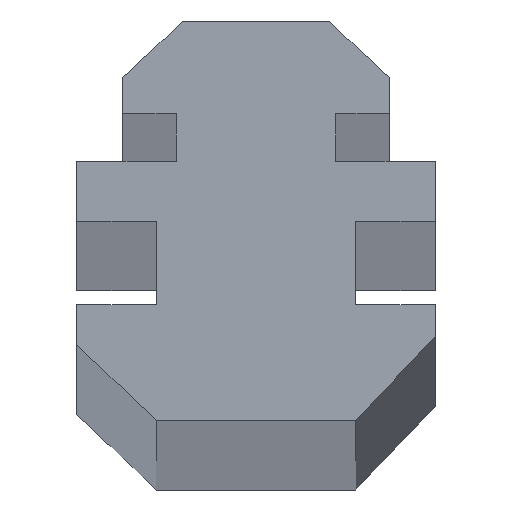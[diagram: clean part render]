
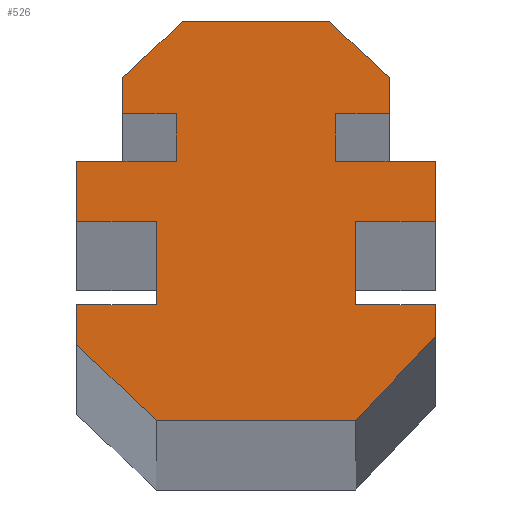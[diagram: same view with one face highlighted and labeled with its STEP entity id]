
A CAD part, top view. The second image highlights one B-rep face of the part: STEP entity #526.
In plain terms, the highlighted planar face has unit normal (0, 0, 1).
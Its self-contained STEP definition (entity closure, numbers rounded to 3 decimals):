
#40=FACE_OUTER_BOUND('',#66,.T.);
#66=EDGE_LOOP('',(#451,#452,#453,#454,#455,#456,#457,#458,#459,#460,#461,
#462,#463,#464,#465,#466,#467,#468,#469,#470,#471,#472,#473,#474));
#92=LINE('',#753,#164);
#94=LINE('',#757,#166);
#96=LINE('',#761,#168);
#98=LINE('',#765,#170);
#100=LINE('',#769,#172);
#102=LINE('',#773,#174);
#104=LINE('',#777,#176);
#106=LINE('',#781,#178);
#108=LINE('',#785,#180);
#110=LINE('',#789,#182);
#112=LINE('',#793,#184);
#114=LINE('',#797,#186);
#116=LINE('',#801,#188);
#118=LINE('',#805,#190);
#120=LINE('',#809,#192);
#122=LINE('',#813,#194);
#124=LINE('',#817,#196);
#126=LINE('',#821,#198);
#128=LINE('',#825,#200);
#130=LINE('',#829,#202);
#132=LINE('',#833,#204);
#134=LINE('',#837,#206);
#136=LINE('',#841,#208);
#138=LINE('',#844,#210);
#164=VECTOR('',#604,10.);
#166=VECTOR('',#608,10.);
#168=VECTOR('',#612,10.);
#170=VECTOR('',#616,10.);
#172=VECTOR('',#620,10.);
#174=VECTOR('',#624,10.);
#176=VECTOR('',#628,10.);
#178=VECTOR('',#632,10.);
#180=VECTOR('',#636,10.);
#182=VECTOR('',#640,10.);
#184=VECTOR('',#644,10.);
#186=VECTOR('',#648,10.);
#188=VECTOR('',#652,10.);
#190=VECTOR('',#656,10.);
#192=VECTOR('',#660,10.);
#194=VECTOR('',#664,10.);
#196=VECTOR('',#668,10.);
#198=VECTOR('',#672,10.);
#200=VECTOR('',#676,10.);
#202=VECTOR('',#680,10.);
#204=VECTOR('',#684,10.);
#206=VECTOR('',#688,10.);
#208=VECTOR('',#692,10.);
#210=VECTOR('',#696,10.);
#235=VERTEX_POINT('',#750);
#236=VERTEX_POINT('',#752);
#237=VERTEX_POINT('',#756);
#238=VERTEX_POINT('',#760);
#239=VERTEX_POINT('',#764);
#240=VERTEX_POINT('',#768);
#241=VERTEX_POINT('',#772);
#242=VERTEX_POINT('',#776);
#243=VERTEX_POINT('',#780);
#244=VERTEX_POINT('',#784);
#245=VERTEX_POINT('',#788);
#246=VERTEX_POINT('',#792);
#247=VERTEX_POINT('',#796);
#248=VERTEX_POINT('',#800);
#249=VERTEX_POINT('',#804);
#250=VERTEX_POINT('',#808);
#251=VERTEX_POINT('',#812);
#252=VERTEX_POINT('',#816);
#253=VERTEX_POINT('',#820);
#254=VERTEX_POINT('',#824);
#255=VERTEX_POINT('',#828);
#256=VERTEX_POINT('',#832);
#257=VERTEX_POINT('',#836);
#258=VERTEX_POINT('',#840);
#284=EDGE_CURVE('',#236,#235,#92,.T.);
#286=EDGE_CURVE('',#237,#236,#94,.T.);
#288=EDGE_CURVE('',#238,#237,#96,.T.);
#290=EDGE_CURVE('',#239,#238,#98,.T.);
#292=EDGE_CURVE('',#240,#239,#100,.T.);
#294=EDGE_CURVE('',#241,#240,#102,.T.);
#296=EDGE_CURVE('',#242,#241,#104,.T.);
#298=EDGE_CURVE('',#243,#242,#106,.T.);
#300=EDGE_CURVE('',#244,#243,#108,.T.);
#302=EDGE_CURVE('',#245,#244,#110,.T.);
#304=EDGE_CURVE('',#246,#245,#112,.T.);
#306=EDGE_CURVE('',#247,#246,#114,.T.);
#308=EDGE_CURVE('',#248,#247,#116,.T.);
#310=EDGE_CURVE('',#249,#248,#118,.T.);
#312=EDGE_CURVE('',#250,#249,#120,.T.);
#314=EDGE_CURVE('',#251,#250,#122,.T.);
#316=EDGE_CURVE('',#252,#251,#124,.T.);
#318=EDGE_CURVE('',#253,#252,#126,.T.);
#320=EDGE_CURVE('',#254,#253,#128,.T.);
#322=EDGE_CURVE('',#255,#254,#130,.T.);
#324=EDGE_CURVE('',#256,#255,#132,.T.);
#326=EDGE_CURVE('',#257,#256,#134,.T.);
#328=EDGE_CURVE('',#258,#257,#136,.T.);
#330=EDGE_CURVE('',#235,#258,#138,.T.);
#451=ORIENTED_EDGE('',*,*,#330,.T.);
#452=ORIENTED_EDGE('',*,*,#328,.T.);
#453=ORIENTED_EDGE('',*,*,#326,.T.);
#454=ORIENTED_EDGE('',*,*,#324,.T.);
#455=ORIENTED_EDGE('',*,*,#322,.T.);
#456=ORIENTED_EDGE('',*,*,#320,.T.);
#457=ORIENTED_EDGE('',*,*,#318,.T.);
#458=ORIENTED_EDGE('',*,*,#316,.T.);
#459=ORIENTED_EDGE('',*,*,#314,.T.);
#460=ORIENTED_EDGE('',*,*,#312,.T.);
#461=ORIENTED_EDGE('',*,*,#310,.T.);
#462=ORIENTED_EDGE('',*,*,#308,.T.);
#463=ORIENTED_EDGE('',*,*,#306,.T.);
#464=ORIENTED_EDGE('',*,*,#304,.T.);
#465=ORIENTED_EDGE('',*,*,#302,.T.);
#466=ORIENTED_EDGE('',*,*,#300,.T.);
#467=ORIENTED_EDGE('',*,*,#298,.T.);
#468=ORIENTED_EDGE('',*,*,#296,.T.);
#469=ORIENTED_EDGE('',*,*,#294,.T.);
#470=ORIENTED_EDGE('',*,*,#292,.T.);
#471=ORIENTED_EDGE('',*,*,#290,.T.);
#472=ORIENTED_EDGE('',*,*,#288,.T.);
#473=ORIENTED_EDGE('',*,*,#286,.T.);
#474=ORIENTED_EDGE('',*,*,#284,.T.);
#500=PLANE('',#572);
#526=ADVANCED_FACE('',(#40),#500,.T.);
#572=AXIS2_PLACEMENT_3D('',#845,#697,#698);
#604=DIRECTION('',(-1.,0.,0.));
#608=DIRECTION('',(0.,-1.,0.));
#612=DIRECTION('',(1.,0.,0.));
#616=DIRECTION('',(0.,-1.,0.));
#620=DIRECTION('',(-0.731,-0.682,0.));
#624=DIRECTION('',(-1.,0.,0.));
#628=DIRECTION('',(-0.731,0.682,0.));
#632=DIRECTION('',(0.,1.,0.));
#636=DIRECTION('',(1.,0.,0.));
#640=DIRECTION('',(0.,1.,0.));
#644=DIRECTION('',(-1.,0.,0.));
#648=DIRECTION('',(0.,1.,0.));
#652=DIRECTION('',(1.,0.,0.));
#656=DIRECTION('',(0.,1.,0.));
#660=DIRECTION('',(-1.,0.,0.));
#664=DIRECTION('',(0.,1.,0.));
#668=DIRECTION('',(0.689,0.725,0.));
#672=DIRECTION('',(1.,0.,0.));
#676=DIRECTION('',(0.725,-0.689,0.));
#680=DIRECTION('',(0.,-1.,0.));
#684=DIRECTION('',(-1.,0.,0.));
#688=DIRECTION('',(0.,-1.,0.));
#692=DIRECTION('',(1.,0.,0.));
#696=DIRECTION('',(0.,-1.,0.));
#697=DIRECTION('center_axis',(0.,0.,1.));
#698=DIRECTION('ref_axis',(1.,0.,0.));
#750=CARTESIAN_POINT('',(-9.,1.5,1000.));
#752=CARTESIAN_POINT('',(-4.,1.5,1000.));
#753=CARTESIAN_POINT('',(-4.,1.5,1000.));
#756=CARTESIAN_POINT('',(-4.,3.9,1000.));
#757=CARTESIAN_POINT('',(-4.,3.9,1000.));
#760=CARTESIAN_POINT('',(-6.7,3.9,1000.));
#761=CARTESIAN_POINT('',(-6.7,3.9,1000.));
#764=CARTESIAN_POINT('',(-6.7,5.7,1000.));
#765=CARTESIAN_POINT('',(-6.7,5.7,1000.));
#768=CARTESIAN_POINT('',(-3.7,8.5,1000.));
#769=CARTESIAN_POINT('',(-3.7,8.5,1000.));
#772=CARTESIAN_POINT('',(3.7,8.5,1000.));
#773=CARTESIAN_POINT('',(3.7,8.5,1000.));
#776=CARTESIAN_POINT('',(6.7,5.7,1000.));
#777=CARTESIAN_POINT('',(6.7,5.7,1000.));
#780=CARTESIAN_POINT('',(6.7,3.9,1000.));
#781=CARTESIAN_POINT('',(6.7,3.9,1000.));
#784=CARTESIAN_POINT('',(4.,3.9,1000.));
#785=CARTESIAN_POINT('',(4.,3.9,1000.));
#788=CARTESIAN_POINT('',(4.,1.5,1000.));
#789=CARTESIAN_POINT('',(4.,1.5,1000.));
#792=CARTESIAN_POINT('',(9.,1.5,1000.));
#793=CARTESIAN_POINT('',(9.,1.5,1000.));
#796=CARTESIAN_POINT('',(9.,-1.5,1000.));
#797=CARTESIAN_POINT('',(9.,-1.5,1000.));
#800=CARTESIAN_POINT('',(5.,-1.5,1000.));
#801=CARTESIAN_POINT('',(5.,-1.5,1000.));
#804=CARTESIAN_POINT('',(5.,-5.7,1000.));
#805=CARTESIAN_POINT('',(5.,-5.7,1000.));
#808=CARTESIAN_POINT('',(9.,-5.7,1000.));
#809=CARTESIAN_POINT('',(9.,-5.7,1000.));
#812=CARTESIAN_POINT('',(9.,-7.289,1000.));
#813=CARTESIAN_POINT('',(9.,-7.289,1000.));
#816=CARTESIAN_POINT('',(5.,-11.5,1000.));
#817=CARTESIAN_POINT('',(5.,-11.5,1000.));
#820=CARTESIAN_POINT('',(-5.,-11.5,1000.));
#821=CARTESIAN_POINT('',(-5.,-11.5,1000.));
#824=CARTESIAN_POINT('',(-9.,-7.7,1000.));
#825=CARTESIAN_POINT('',(-9.,-7.7,1000.));
#828=CARTESIAN_POINT('',(-9.,-5.7,1000.));
#829=CARTESIAN_POINT('',(-9.,-5.7,1000.));
#832=CARTESIAN_POINT('',(-5.,-5.7,1000.));
#833=CARTESIAN_POINT('',(-5.,-5.7,1000.));
#836=CARTESIAN_POINT('',(-5.,-1.5,1000.));
#837=CARTESIAN_POINT('',(-5.,-1.5,1000.));
#840=CARTESIAN_POINT('',(-9.,-1.5,1000.));
#841=CARTESIAN_POINT('',(-9.,-1.5,1000.));
#844=CARTESIAN_POINT('',(-9.,1.5,1000.));
#845=CARTESIAN_POINT('Origin',(-0.018,-1.548,1000.));
